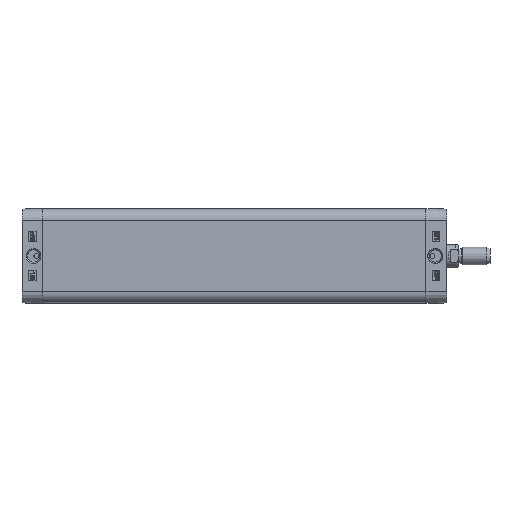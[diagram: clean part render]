
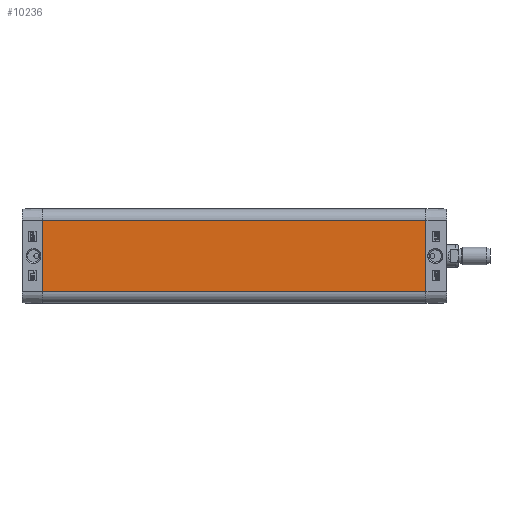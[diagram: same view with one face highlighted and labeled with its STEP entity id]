
A CAD part, left-side view. The second image highlights one B-rep face of the part: STEP entity #10236.
In plain terms, the highlighted planar face has unit normal (-1, 0, 0).
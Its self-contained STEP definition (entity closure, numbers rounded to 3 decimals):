
#5238=CARTESIAN_POINT('',(-32.75,-266.0,24.75));
#5239=VERTEX_POINT('',#5238);
#5246=CARTESIAN_POINT('',(-32.75,-266.0,-24.75));
#5247=VERTEX_POINT('',#5246);
#5248=CARTESIAN_POINT('',(-32.75,-266.0,-24.75));
#5249=DIRECTION('',(0.0,0.0,1.0));
#5250=VECTOR('',#5249,49.5);
#5251=LINE('',#5248,#5250);
#5252=EDGE_CURVE('',#5247,#5239,#5251,.T.);
#10194=CARTESIAN_POINT('',(-32.75,0.0,-24.75));
#10195=VERTEX_POINT('',#10194);
#10196=CARTESIAN_POINT('',(-32.75,0.0,-24.75));
#10197=DIRECTION('',(0.0,-1.0,0.0));
#10198=VECTOR('',#10197,266.0);
#10199=LINE('',#10196,#10198);
#10200=EDGE_CURVE('',#10195,#5247,#10199,.T.);
#10213=CARTESIAN_POINT('',(-32.75,0.0,-24.75));
#10214=DIRECTION('',(-1.0,0.0,0.0));
#10215=DIRECTION('',(0.0,0.0,1.0));
#10216=AXIS2_PLACEMENT_3D('',#10213,#10214,#10215);
#10217=PLANE('',#10216);
#10218=ORIENTED_EDGE('',*,*,#5252,.T.);
#10219=CARTESIAN_POINT('',(-32.75,0.0,24.75));
#10220=VERTEX_POINT('',#10219);
#10221=CARTESIAN_POINT('',(-32.75,0.0,24.75));
#10222=DIRECTION('',(0.0,-1.0,0.0));
#10223=VECTOR('',#10222,266.0);
#10224=LINE('',#10221,#10223);
#10225=EDGE_CURVE('',#10220,#5239,#10224,.T.);
#10226=ORIENTED_EDGE('',*,*,#10225,.F.);
#10227=CARTESIAN_POINT('',(-32.75,0.0,-24.75));
#10228=DIRECTION('',(0.0,0.0,1.0));
#10229=VECTOR('',#10228,49.5);
#10230=LINE('',#10227,#10229);
#10231=EDGE_CURVE('',#10195,#10220,#10230,.T.);
#10232=ORIENTED_EDGE('',*,*,#10231,.F.);
#10233=ORIENTED_EDGE('',*,*,#10200,.T.);
#10234=EDGE_LOOP('',(#10218,#10226,#10232,#10233));
#10235=FACE_OUTER_BOUND('',#10234,.T.);
#10236=ADVANCED_FACE('',(#10235),#10217,.T.);
